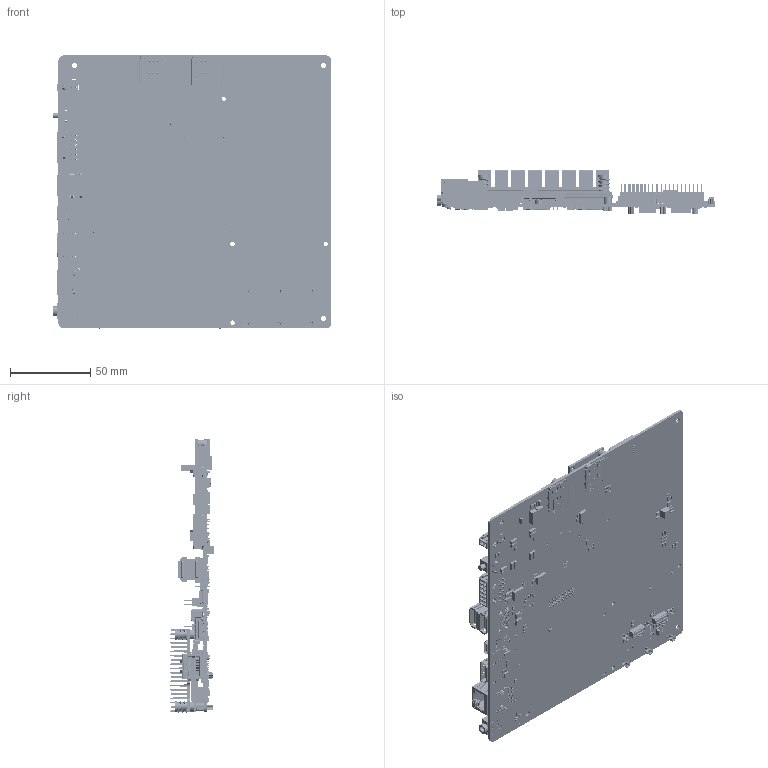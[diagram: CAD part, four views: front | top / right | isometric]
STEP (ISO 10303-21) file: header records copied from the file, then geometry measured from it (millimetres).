
FILE_DESCRIPTION((''),'2;1');
FILE_NAME('TN186_TN167_HEATSINK_ASM','2021-01-26T',('gary'),(''),'CREO PARAMETRIC BY PTC INC, 2014350','CREO PARAMETRIC BY PTC INC, 2014350','');
FILE_SCHEMA(('AUTOMOTIVE_DESIGN { 1 0 10303 214 1 1 1 1 }'));
Products named in the file (151): TN186-PCB; KRJ-14462-108XX; SHHORTPIN_4N_7; SHHORTPIN_4N_6; SHHORTPIN_4N_5; SHHORTPIN_4N_4; SHHORTPIN_4N_3; SHHORTPIN_4N_2; SHHORTPIN_4N_1; SHHORTPIN_4N; SHHORTPIN_4N_8; SHORT_4N_ASM; SHELL_4N; LONGPIN_4N; LONGPIN_4N_1; LONGPIN_4N_2; LONGPIN_4N_3; LONGPIN_4N_4; LONGPIN_4N_5; LONGPIN_4N_6; LONGPIN_4N_7; LONGPIN_4N_8; LONGPIN_4N_9; LONG_4N_ASM; HOUSING_4N; 51U-321N_ASM_1_ASM; UT11113-11604-7H-327-0708-X2__1; UT11113-11604-7H-327-0708-X2__2; UT11113-11604-7H-327-0708-X2_1_ASM; USB_30A_90DIP; B35M16H40; ASOB82X-XH_317-0000-S78B-X-1_; PIN_HOLDER_2X6_P254_H78_SMT; PIN_HOLDER_2X20_P254_H78_SMT; AAA-PCI-073-P08_6_1_2; PCI-E-MINI_6_1_2; CONN_33PIN_05P; HOUSING; SHELL; DUANZI2_2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
Assembly tree (1439 placements, depth 5):
  TN186_TN167_HEATSINK_ASM
    TN186-PCB-ASM_ASM
      TN186-PCB
      KRJ-14462-108XX
      51U-321N_ASM_1_ASM
        SHORT_4N_ASM
          SHHORTPIN_4N_7
          SHHORTPIN_4N_6
          SHHORTPIN_4N_5
          SHHORTPIN_4N_4
          SHHORTPIN_4N_3
          SHHORTPIN_4N_2
          SHHORTPIN_4N_1
          SHHORTPIN_4N
          SHHORTPIN_4N_8
        SHELL_4N
        LONG_4N_ASM
          LONGPIN_4N
          LONGPIN_4N_1
          LONGPIN_4N_2
          LONGPIN_4N_3
          LONGPIN_4N_4
          LONGPIN_4N_5
          LONGPIN_4N_6
          LONGPIN_4N_7
          LONGPIN_4N_8
          LONGPIN_4N_9
        HOUSING_4N
      UT11113-11604-7H-327-0708-X2_1_ASM
        UT11113-11604-7H-327-0708-X2__1
        UT11113-11604-7H-327-0708-X2__2
      USB_30A_90DIP
      B35M16H40  x6
      ASOB82X-XH_317-0000-S78B-X-1_
      PIN_HOLDER_2X6_P254_H78_SMT  x2
      PIN_HOLDER_2X20_P254_H78_SMT
      AAA-PCI-073-P08_6_1_2
      PCI-E-MINI_6_1_2
      CONN_33PIN_05P
      MICRO_SIM_CARD_40GI-001_1_ASM  x2
        HOUSING
        SHELL
        DUANZI2_2
        DUANZI_2
        DUANZI2_3
      PCIE-M2_KEYB-042
      CP_M2-22_42
      M2_CU_BOSS
      M2_SCREW_NUT
      PCIE-B50M20L043
      CONN_DF40C-70DP-04V
      CON_125P_2PIN  x3
      CANBUS_430451200
      SWITCH_74X62_2_1_2
      CONN_DF40HC-40DS-04V  x2
      2X1_1_1_2
      AUDIO_PJD-035-47B
      USB_TOUCH_1_1_2
      EDM_CU_BOSS  x4
      B35M16H30  x4
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Bounding box: 173.5 x 26.9 x 170.07 mm (x, y, z)
Volume: 104948.2 mm3; surface area: 164069.6 mm2
Topology: 1438 solids, 1438 shells, 25729 faces, 65020 edges, 42663 vertices
Faces by surface type: plane 21108, cylinder 4188, bspline 166, torus 164, cone 93, extrusion 8, sphere 2
Entity records: 617102 total; most frequent: CARTESIAN_POINT 99611, DIRECTION 76831, ORIENTED_EDGE 75488, EDGE_CURVE 37744, PRESENTATION_STYLE_ASSIGNMENT 36844, STYLED_ITEM 36724, CURVE_STYLE 36658, VECTOR 29903
